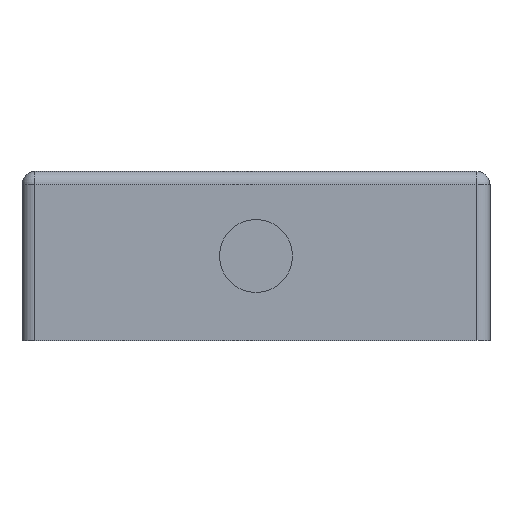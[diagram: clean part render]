
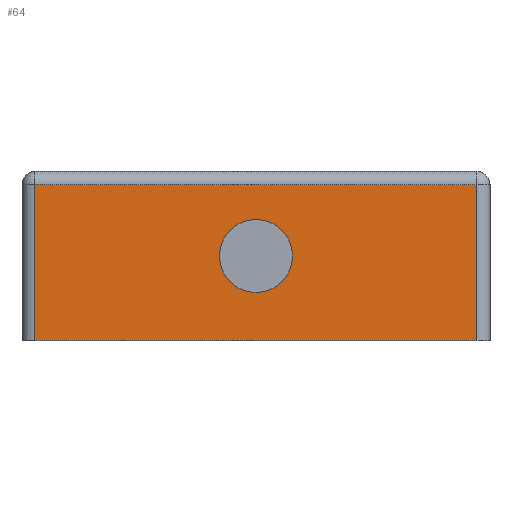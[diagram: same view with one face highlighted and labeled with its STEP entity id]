
A CAD part, front view. The second image highlights one B-rep face of the part: STEP entity #64.
In plain terms, the highlighted planar face has unit normal (0, -1, 0).
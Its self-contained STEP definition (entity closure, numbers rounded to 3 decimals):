
#64=ADVANCED_FACE('',(#135,#136),#88,.T.);
#88=PLANE('',#371);
#97=LINE('',#535,#116);
#98=LINE('',#538,#117);
#99=LINE('',#540,#118);
#100=LINE('',#542,#119);
#116=VECTOR('',#421,1.);
#117=VECTOR('',#422,1.);
#118=VECTOR('',#423,1.);
#119=VECTOR('',#424,1.);
#135=FACE_BOUND('',#157,.T.);
#136=FACE_BOUND('',#158,.T.);
#157=EDGE_LOOP('',(#193));
#158=EDGE_LOOP('',(#194,#195,#196,#197));
#193=ORIENTED_EDGE('',*,*,#305,.F.);
#194=ORIENTED_EDGE('',*,*,#306,.T.);
#195=ORIENTED_EDGE('',*,*,#307,.T.);
#196=ORIENTED_EDGE('',*,*,#308,.T.);
#197=ORIENTED_EDGE('',*,*,#309,.T.);
#277=VERTEX_POINT('',#534);
#278=VERTEX_POINT('',#536);
#279=VERTEX_POINT('',#537);
#280=VERTEX_POINT('',#539);
#281=VERTEX_POINT('',#541);
#305=EDGE_CURVE('',#277,#277,#347,.T.);
#306=EDGE_CURVE('',#278,#279,#97,.T.);
#307=EDGE_CURVE('',#279,#280,#98,.T.);
#308=EDGE_CURVE('',#280,#281,#99,.T.);
#309=EDGE_CURVE('',#281,#278,#100,.T.);
#347=CIRCLE('',#370,2.8);
#370=AXIS2_PLACEMENT_3D('',#533,#419,#420);
#371=AXIS2_PLACEMENT_3D('',#543,#425,#426);
#419=DIRECTION('',(0.,-1.,0.));
#420=DIRECTION('',(0.,0.,-1.));
#421=DIRECTION('',(-1.,0.,0.));
#422=DIRECTION('',(0.,0.,-1.));
#423=DIRECTION('',(1.,0.,0.));
#424=DIRECTION('',(0.,0.,1.));
#425=DIRECTION('',(0.,-1.,0.));
#426=DIRECTION('',(0.,0.,-1.));
#533=CARTESIAN_POINT('',(0.,-26.,6.5));
#534=CARTESIAN_POINT('',(0.,-26.,3.7));
#535=CARTESIAN_POINT('',(0.,-26.,12.));
#536=CARTESIAN_POINT('',(17.,-26.,12.));
#537=CARTESIAN_POINT('',(-17.,-26.,12.));
#538=CARTESIAN_POINT('',(-17.,-26.,13.));
#539=CARTESIAN_POINT('',(-17.,-26.,0.));
#540=CARTESIAN_POINT('',(0.,-26.,0.));
#541=CARTESIAN_POINT('',(17.,-26.,0.));
#542=CARTESIAN_POINT('',(17.,-26.,13.));
#543=CARTESIAN_POINT('',(0.,-26.,13.));
